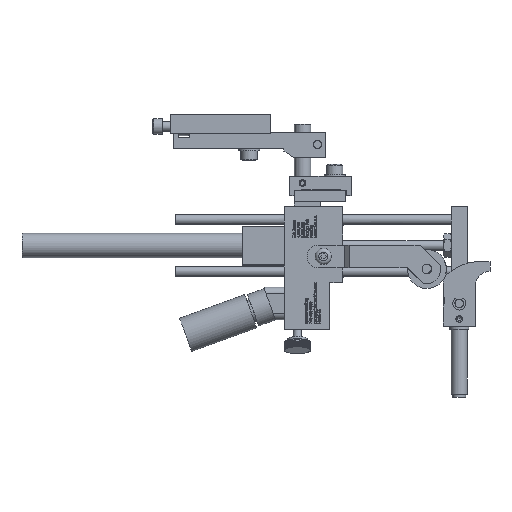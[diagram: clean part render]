
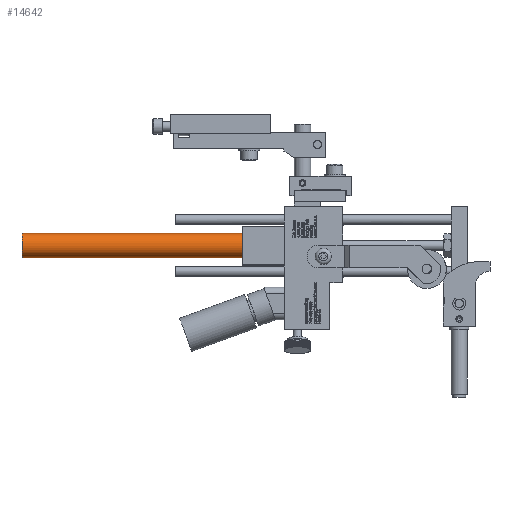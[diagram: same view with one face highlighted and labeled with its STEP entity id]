
A CAD part, top view. The second image highlights one B-rep face of the part: STEP entity #14642.
In plain terms, the highlighted cylindrical face has radius 5.969 mm (diameter 11.938 mm), a full revolution.
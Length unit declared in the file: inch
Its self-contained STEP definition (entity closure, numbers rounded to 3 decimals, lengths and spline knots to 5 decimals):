
#14615=CARTESIAN_POINT('',(-1.4995,0.8125,0.375));
#14616=DIRECTION('',(-1.0,0.,0.));
#14617=DIRECTION('',(0.0,0.0,-1.0));
#14618=AXIS2_PLACEMENT_3D('',#14615,#14616,#14617);
#14619=CYLINDRICAL_SURFACE('',#14618,0.235);
#14620=CARTESIAN_POINT('',(-5.7495,0.8125,0.61));
#14621=VERTEX_POINT('',#14620);
#14622=CARTESIAN_POINT('',(-5.7495,0.8125,0.375));
#14623=DIRECTION('',(1.0,0.0,0.0));
#14624=DIRECTION('',(0.0,0.0,-1.0));
#14625=AXIS2_PLACEMENT_3D('',#14622,#14623,#14624);
#14626=CIRCLE('',#14625,0.235);
#14627=EDGE_CURVE('',#14621,#14621,#14626,.T.);
#14628=ORIENTED_EDGE('',*,*,#14627,.T.);
#14629=EDGE_LOOP('',(#14628));
#14630=FACE_OUTER_BOUND('',#14629,.T.);
#14631=CARTESIAN_POINT('',(-1.4995,0.8125,0.61));
#14632=VERTEX_POINT('',#14631);
#14633=CARTESIAN_POINT('',(-1.4995,0.8125,0.375));
#14634=DIRECTION('',(1.0,0.0,0.0));
#14635=DIRECTION('',(0.0,0.0,-1.0));
#14636=AXIS2_PLACEMENT_3D('',#14633,#14634,#14635);
#14637=CIRCLE('',#14636,0.235);
#14638=EDGE_CURVE('',#14632,#14632,#14637,.T.);
#14639=ORIENTED_EDGE('',*,*,#14638,.F.);
#14640=EDGE_LOOP('',(#14639));
#14641=FACE_BOUND('',#14640,.T.);
#14642=ADVANCED_FACE('',(#14630,#14641),#14619,.T.);
